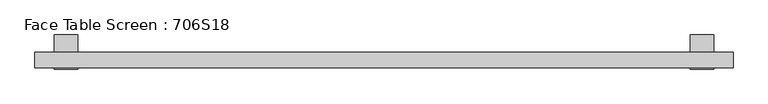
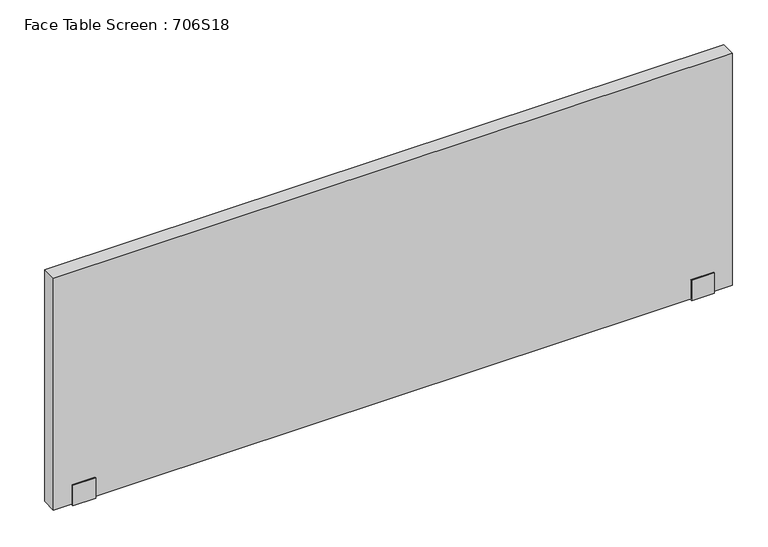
"""IFC4 building model written with IfcOpenShell, lengths in millimetres: furniture geometry, Face Table Screen : 706S18."""

from ifc_helpers import new_model, si_unit, frame, origin, place, context, project, spatial, polyline, outline, extrude, source, transform, mapped, element, save


def face_table_screen_706s18_cf4f79c4(model_context):
    return source(origin(), model_context, "Body", "SweptSolid", [
        extrude(outline(polyline([(-22.9999947, -256.0), (-22.9999997, -199.0433898), (-20.0, -199.0433898), (-20.0, -253.0), (20.0, -253.0), (20.0, -22.0), (65.0, -22.0), (65.0, -25.0433898), (23.0000062, -25.0433898), (22.9999947, -256.0), (-22.9999947, -256.0)])), frame((790.0, 0.0, 0.0), z_axis=(1.0, 0.0, 0.0), x_axis=(0.0, 1.0, 0.0)), (0.0, 0.0, 1.0), 60.0),
        extrude(outline(polyline([(-22.9999947, -256.0), (-22.9999997, -199.0433898), (-20.0, -199.0433898), (-20.0, -253.0), (20.0, -253.0), (20.0, -22.0), (65.0, -22.0), (65.0, -25.0433898), (23.0000062, -25.0433898), (22.9999947, -256.0), (-22.9999947, -256.0)])), frame((-850.0, 0.0, 0.0), z_axis=(1.0, 0.0, 0.0), x_axis=(0.0, 1.0, 0.0)), (0.0, 0.0, 1.0), 60.0),
        extrude(outline(polyline([(900.0, -20.0), (-900.0, -20.0), (-900.0, 20.0), (900.0, 20.0), (900.0, -20.0)])), frame((0.0, 0.0, -253.0), z_axis=(0.0, 0.0, 1.0), x_axis=(1.0, 0.0, 0.0)), (0.0, 0.0, 1.0), 650.0),
    ])


if __name__ == "__main__":
    model = new_model("IFC4")
    model_context = context("Model", 3, world=origin())
    ifc_project = project(units=[si_unit("LENGTHUNIT", "METRE", prefix="MILLI")], contexts=[model_context])
    site = spatial("IfcSite", under=ifc_project)
    building = spatial("IfcBuilding", under=site)
    placement = place(None, origin())
    face_table_screen_706s18_shape = face_table_screen_706s18_cf4f79c4(model_context)
    element("IfcFurniture", 1, ObjectType="Face Table Screen : 706S18", at=placement, inside=building, context=model_context, shape_type="MappedRepresentation", body=[
        mapped(face_table_screen_706s18_shape, transform((0.0, 0.0, 0.0), x_axis=(1.0, 0.0, 0.0), y_axis=(0.0, 1.0, 0.0), z_axis=(0.0, 0.0, 1.0))),
    ])
    save(model, "model.ifc")
